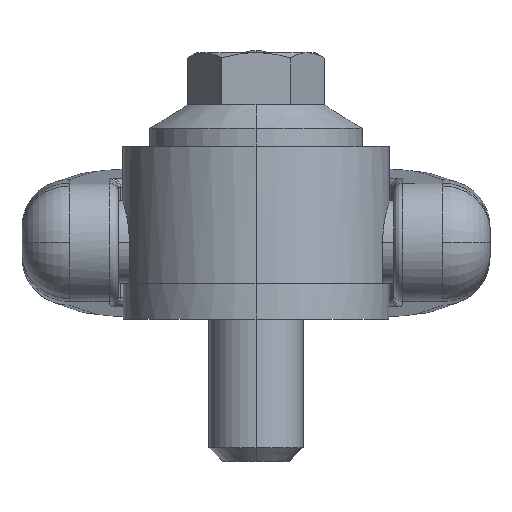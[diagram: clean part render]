
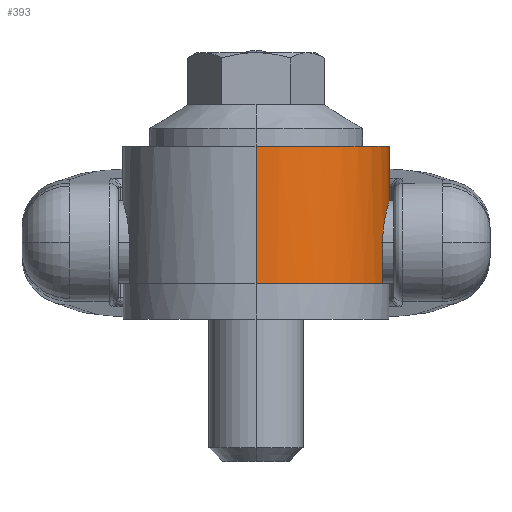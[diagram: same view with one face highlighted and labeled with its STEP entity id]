
A CAD part, top view. The second image highlights one B-rep face of the part: STEP entity #393.
In plain terms, the highlighted cylindrical face has radius 22.5 mm (diameter 45 mm), a partial arc.
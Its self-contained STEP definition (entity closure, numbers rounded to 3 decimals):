
#384 = EDGE_LOOP ( 'NONE', ( #385, #545, #548, #4796, #4786, #410, #408, #399 ) ) ;
#385 = ORIENTED_EDGE ( 'NONE', *, *, #386, .F. ) ;
#386 = EDGE_CURVE ( 'NONE', #388, #387, #1194, .T. ) ;
#387 = VERTEX_POINT ( 'NONE', #1189 ) ;
#388 = VERTEX_POINT ( 'NONE', #1188 ) ;
#393 = ADVANCED_FACE ( 'NONE', ( #1187 ), #1186, .T. ) ;
#394 = VERTEX_POINT ( 'NONE', #1185 ) ;
#399 = ORIENTED_EDGE ( 'NONE', *, *, #400, .F. ) ;
#400 = EDGE_CURVE ( 'NONE', #387, #394, #1176, .T. ) ;
#407 = EDGE_CURVE ( 'NONE', #394, #411, #1171, .T. ) ;
#408 = ORIENTED_EDGE ( 'NONE', *, *, #407, .F. ) ;
#410 = ORIENTED_EDGE ( 'NONE', *, *, #412, .T. ) ;
#411 = VERTEX_POINT ( 'NONE', #1230 ) ;
#412 = EDGE_CURVE ( 'NONE', #413, #411, #1225, .T. ) ;
#413 = VERTEX_POINT ( 'NONE', #1221 ) ;
#545 = ORIENTED_EDGE ( 'NONE', *, *, #546, .T. ) ;
#546 = EDGE_CURVE ( 'NONE', #388, #547, #1506, .T. ) ;
#547 = VERTEX_POINT ( 'NONE', #1502 ) ;
#548 = ORIENTED_EDGE ( 'NONE', *, *, #549, .F. ) ;
#549 = EDGE_CURVE ( 'NONE', #550, #547, #1501, .T. ) ;
#550 = VERTEX_POINT ( 'NONE', #1496 ) ;
#1167 = DIRECTION ( 'NONE',  ( 0., 0., -1. ) ) ;
#1168 = DIRECTION ( 'NONE',  ( 0., -1., 0. ) ) ;
#1169 = CARTESIAN_POINT ( 'NONE',  ( 0., 6., 0. ) ) ;
#1170 = AXIS2_PLACEMENT_3D ( 'NONE', #1169, #1168, #1167 ) ;
#1171 = CIRCLE ( 'NONE', #1170, 22.5 ) ;
#1173 = DIRECTION ( 'NONE',  ( 0., -1., 0. ) ) ;
#1174 = VECTOR ( 'NONE', #1173, 1000. ) ;
#1175 = CARTESIAN_POINT ( 'NONE',  ( 0., 45., -22.5 ) ) ;
#1176 = LINE ( 'NONE', #1175, #1174 ) ;
#1181 = DIRECTION ( 'NONE',  ( 0., 0., -1. ) ) ;
#1182 = DIRECTION ( 'NONE',  ( 0., -1., 0. ) ) ;
#1183 = CARTESIAN_POINT ( 'NONE',  ( 0., 45., 0. ) ) ;
#1184 = AXIS2_PLACEMENT_3D ( 'NONE', #1183, #1182, #1181 ) ;
#1185 = CARTESIAN_POINT ( 'NONE',  ( 0., 6., -22.5 ) ) ;
#1186 = CYLINDRICAL_SURFACE ( 'NONE', #1184, 22.5 ) ;
#1187 = FACE_OUTER_BOUND ( 'NONE', #384, .T. ) ;
#1188 = CARTESIAN_POINT ( 'NONE',  ( 0., 29.2, 22.5 ) ) ;
#1189 = CARTESIAN_POINT ( 'NONE',  ( 0., 29.2, -22.5 ) ) ;
#1190 = DIRECTION ( 'NONE',  ( 0., 0., 1. ) ) ;
#1191 = DIRECTION ( 'NONE',  ( 0., 1., 0. ) ) ;
#1192 = CARTESIAN_POINT ( 'NONE',  ( 0., 29.2, 0. ) ) ;
#1193 = AXIS2_PLACEMENT_3D ( 'NONE', #1192, #1191, #1190 ) ;
#1194 = CIRCLE ( 'NONE', #1193, 22.5 ) ;
#1221 = CARTESIAN_POINT ( 'NONE',  ( 21.383, 13., -7. ) ) ;
#1222 = DIRECTION ( 'NONE',  ( 0., -1., 0. ) ) ;
#1223 = VECTOR ( 'NONE', #1222, 1000. ) ;
#1224 = CARTESIAN_POINT ( 'NONE',  ( 21.383, 45., -7. ) ) ;
#1225 = LINE ( 'NONE', #1224, #1223 ) ;
#1230 = CARTESIAN_POINT ( 'NONE',  ( 21.383, 6., -7. ) ) ;
#1496 = CARTESIAN_POINT ( 'NONE',  ( 21.383, 6., 7. ) ) ;
#1497 = DIRECTION ( 'NONE',  ( 0., 0., -1. ) ) ;
#1498 = DIRECTION ( 'NONE',  ( 0., -1., 0. ) ) ;
#1499 = CARTESIAN_POINT ( 'NONE',  ( 0., 6., 0. ) ) ;
#1500 = AXIS2_PLACEMENT_3D ( 'NONE', #1499, #1498, #1497 ) ;
#1501 = CIRCLE ( 'NONE', #1500, 22.5 ) ;
#1502 = CARTESIAN_POINT ( 'NONE',  ( 0., 6., 22.5 ) ) ;
#1503 = DIRECTION ( 'NONE',  ( 0., -1., 0. ) ) ;
#1504 = VECTOR ( 'NONE', #1503, 1000. ) ;
#1505 = CARTESIAN_POINT ( 'NONE',  ( 0., 45., 22.5 ) ) ;
#1506 = LINE ( 'NONE', #1505, #1504 ) ;
#1662 = LINE ( 'NONE', #1729, #1721 ) ;
#1690 = CARTESIAN_POINT ( 'NONE',  ( 22.314, 19.377, -2.896 ) ) ;
#1691 = CARTESIAN_POINT ( 'NONE',  ( 22.391, 19.642, -2.258 ) ) ;
#1692 = CARTESIAN_POINT ( 'NONE',  ( 22.431, 19.775, -1.82 ) ) ;
#1693 = CARTESIAN_POINT ( 'NONE',  ( 22.486, 19.954, -0.92 ) ) ;
#1694 = CARTESIAN_POINT ( 'NONE',  ( 22.5, 20., -0.453 ) ) ;
#1695 = CARTESIAN_POINT ( 'NONE',  ( 22.5, 20., 0.467 ) ) ;
#1696 = CARTESIAN_POINT ( 'NONE',  ( 22.486, 19.954, 0.923 ) ) ;
#1697 = CARTESIAN_POINT ( 'NONE',  ( 22.444, 19.818, 1.601 ) ) ;
#1698 = CARTESIAN_POINT ( 'NONE',  ( 22.427, 19.761, 1.827 ) ) ;
#1699 = CARTESIAN_POINT ( 'NONE',  ( 22.387, 19.627, 2.267 ) ) ;
#1700 = CARTESIAN_POINT ( 'NONE',  ( 22.364, 19.549, 2.482 ) ) ;
#1701 = CARTESIAN_POINT ( 'NONE',  ( 22.288, 19.286, 3.113 ) ) ;
#1702 = CARTESIAN_POINT ( 'NONE',  ( 22.227, 19.071, 3.515 ) ) ;
#1703 = CARTESIAN_POINT ( 'NONE',  ( 22.093, 18.559, 4.279 ) ) ;
#1704 = CARTESIAN_POINT ( 'NONE',  ( 22.021, 18.27, 4.63 ) ) ;
#1705 = CARTESIAN_POINT ( 'NONE',  ( 21.913, 17.789, 5.11 ) ) ;
#1706 = CARTESIAN_POINT ( 'NONE',  ( 21.876, 17.621, 5.263 ) ) ;
#1707 = CARTESIAN_POINT ( 'NONE',  ( 21.804, 17.268, 5.553 ) ) ;
#1708 = CARTESIAN_POINT ( 'NONE',  ( 21.769, 17.082, 5.691 ) ) ;
#1709 = CARTESIAN_POINT ( 'NONE',  ( 21.667, 16.514, 6.072 ) ) ;
#1710 = CARTESIAN_POINT ( 'NONE',  ( 21.605, 16.113, 6.287 ) ) ;
#1711 = CARTESIAN_POINT ( 'NONE',  ( 21.526, 15.478, 6.551 ) ) ;
#1712 = CARTESIAN_POINT ( 'NONE',  ( 21.501, 15.26, 6.629 ) ) ;
#1713 = CARTESIAN_POINT ( 'NONE',  ( 21.459, 14.819, 6.764 ) ) ;
#1714 = CARTESIAN_POINT ( 'NONE',  ( 21.442, 14.596, 6.819 ) ) ;
#1715 = CARTESIAN_POINT ( 'NONE',  ( 21.399, 13.923, 6.954 ) ) ;
#1716 = CARTESIAN_POINT ( 'NONE',  ( 21.383, 13.465, 7. ) ) ;
#1717 = CARTESIAN_POINT ( 'NONE',  ( 21.383, 13., 7. ) ) ;
#1718 = CARTESIAN_POINT ( 'NONE',  ( 21.383, 13., 7. ) ) ;
#1719 = B_SPLINE_CURVE_WITH_KNOTS ( 'NONE', 3,
 ( #1717, #1716, #1715, #1714, #1713, #1712, #1711, #1710, #1709, #1708, #1707, #1706, #1705, #1704, #1703, #1702, #1701, #1700, #1699, #1698, #1697, #1696, #1695, #1694, #1693, #1692, #1691, #1690, #1766, #1765, #1764, #1763, #1762, #1761, #1760, #1759, #1758, #1757, #1756, #1755, #1754, #1753, #1752, #1751, #1750, #1749 ),
 .UNSPECIFIED., .F., .F.,
 ( 4, 2, 2, 2, 2, 2, 2, 2, 2, 2, 2, 2, 2, 2, 2, 2, 2, 2, 2, 2, 2, 2, 4 ),
 ( 0., 0.001, 0.002, 0.003, 0.004, 0.005, 0.006, 0.007, 0.008, 0.009, 0.01, 0.011, 0.012, 0.014, 0.014, 0.015, 0.016, 0.017, 0.018, 0.019, 0.021, 0.021, 0.022 ),
 .UNSPECIFIED. ) ;
#1721 = VECTOR ( 'NONE', #1728, 1000. ) ;
#1728 = DIRECTION ( 'NONE',  ( 0., 1., 0. ) ) ;
#1729 = CARTESIAN_POINT ( 'NONE',  ( 21.383, 45., 7. ) ) ;
#1749 = CARTESIAN_POINT ( 'NONE',  ( 21.383, 13., -7. ) ) ;
#1750 = CARTESIAN_POINT ( 'NONE',  ( 21.383, 13.233, -7. ) ) ;
#1751 = CARTESIAN_POINT ( 'NONE',  ( 21.387, 13.465, -6.988 ) ) ;
#1752 = CARTESIAN_POINT ( 'NONE',  ( 21.402, 13.926, -6.942 ) ) ;
#1753 = CARTESIAN_POINT ( 'NONE',  ( 21.413, 14.157, -6.908 ) ) ;
#1754 = CARTESIAN_POINT ( 'NONE',  ( 21.457, 14.835, -6.771 ) ) ;
#1755 = CARTESIAN_POINT ( 'NONE',  ( 21.5, 15.271, -6.637 ) ) ;
#1756 = CARTESIAN_POINT ( 'NONE',  ( 21.605, 16.114, -6.286 ) ) ;
#1757 = CARTESIAN_POINT ( 'NONE',  ( 21.669, 16.523, -6.066 ) ) ;
#1758 = CARTESIAN_POINT ( 'NONE',  ( 21.804, 17.279, -5.559 ) ) ;
#1759 = CARTESIAN_POINT ( 'NONE',  ( 21.876, 17.629, -5.271 ) ) ;
#1760 = CARTESIAN_POINT ( 'NONE',  ( 21.986, 18.113, -4.787 ) ) ;
#1761 = CARTESIAN_POINT ( 'NONE',  ( 22.022, 18.267, -4.616 ) ) ;
#1762 = CARTESIAN_POINT ( 'NONE',  ( 22.093, 18.557, -4.263 ) ) ;
#1763 = CARTESIAN_POINT ( 'NONE',  ( 22.128, 18.692, -4.08 ) ) ;
#1764 = CARTESIAN_POINT ( 'NONE',  ( 22.194, 18.945, -3.703 ) ) ;
#1765 = CARTESIAN_POINT ( 'NONE',  ( 22.226, 19.062, -3.508 ) ) ;
#1766 = CARTESIAN_POINT ( 'NONE',  ( 22.286, 19.278, -3.105 ) ) ;
#4786 = ORIENTED_EDGE ( 'NONE', *, *, #4790, .T. ) ;
#4788 = EDGE_CURVE ( 'NONE', #550, #4794, #1662, .T. ) ;
#4790 = EDGE_CURVE ( 'NONE', #4794, #413, #1719, .T. ) ;
#4794 = VERTEX_POINT ( 'NONE', #1718 ) ;
#4796 = ORIENTED_EDGE ( 'NONE', *, *, #4788, .T. ) ;
